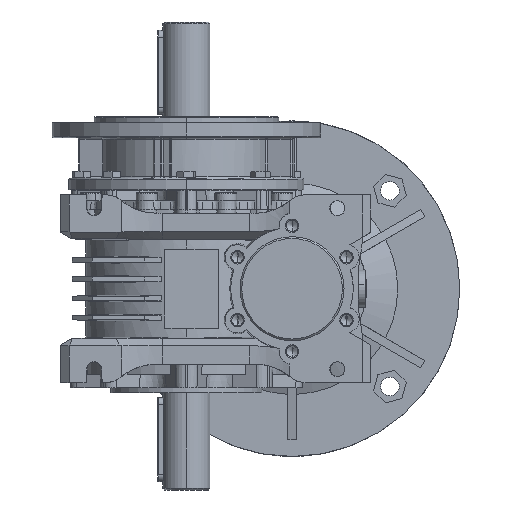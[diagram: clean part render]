
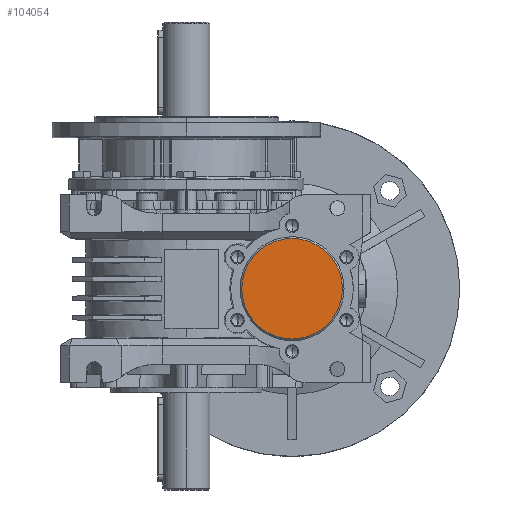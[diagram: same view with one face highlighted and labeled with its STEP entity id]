
A CAD part, left-side view. The second image highlights one B-rep face of the part: STEP entity #104054.
In plain terms, the highlighted planar face has unit normal (-1, 0, 0).
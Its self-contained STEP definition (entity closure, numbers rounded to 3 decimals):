
#1007 = ORIENTED_EDGE ( 'NONE', *, *, #38435, .T. ) ;
#3579 = VERTEX_POINT ( 'NONE', #41378 ) ;
#6713 = DIRECTION ( 'NONE',  ( 0., 0., 1. ) ) ;
#11916 = DIRECTION ( 'NONE',  ( -1., 0., 0. ) ) ;
#13453 = VERTEX_POINT ( 'NONE', #50459 ) ;
#20616 = CARTESIAN_POINT ( 'NONE',  ( -75., -63., 0. ) ) ;
#27125 = AXIS2_PLACEMENT_3D ( 'NONE', #20616, #94667, #102245 ) ;
#27553 = CARTESIAN_POINT ( 'NONE',  ( -75., -63., 0. ) ) ;
#34014 = EDGE_CURVE ( 'NONE', #3579, #13453, #96444, .T. ) ;
#38435 = EDGE_CURVE ( 'NONE', #13453, #3579, #49169, .T. ) ;
#41378 = CARTESIAN_POINT ( 'NONE',  ( -75., -63., 30. ) ) ;
#49169 = CIRCLE ( 'NONE', #52552, 30. ) ;
#50459 = CARTESIAN_POINT ( 'NONE',  ( -75., -63., -30. ) ) ;
#52552 = AXIS2_PLACEMENT_3D ( 'NONE', #27553, #11916, #77906 ) ;
#73216 = CARTESIAN_POINT ( 'NONE',  ( -75., -63., 0. ) ) ;
#77906 = DIRECTION ( 'NONE',  ( 0., 0., 1. ) ) ;
#80783 = DIRECTION ( 'NONE',  ( -1., 0., 0. ) ) ;
#88871 = PLANE ( 'NONE',  #89031 ) ;
#89031 = AXIS2_PLACEMENT_3D ( 'NONE', #73216, #80783, #6713 ) ;
#94667 = DIRECTION ( 'NONE',  ( -1., 0., 0. ) ) ;
#96444 = CIRCLE ( 'NONE', #27125, 30. ) ;
#97036 = ORIENTED_EDGE ( 'NONE', *, *, #34014, .T. ) ;
#97501 = FACE_OUTER_BOUND ( 'NONE', #106624, .T. ) ;
#102245 = DIRECTION ( 'NONE',  ( 0., 0., 1. ) ) ;
#104054 = ADVANCED_FACE ( 'NONE', ( #97501 ), #88871, .T. ) ;
#106624 = EDGE_LOOP ( 'NONE', ( #1007, #97036 ) ) ;
